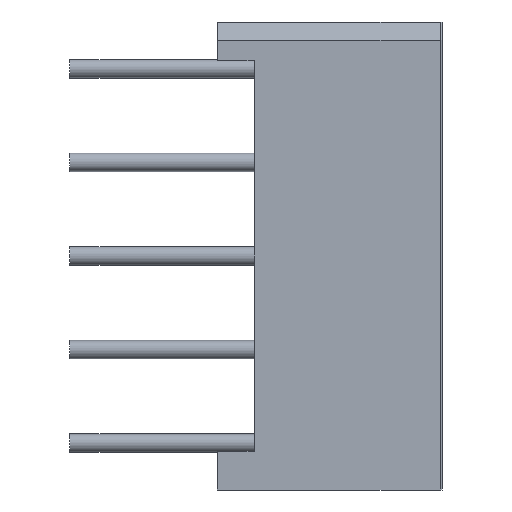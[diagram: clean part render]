
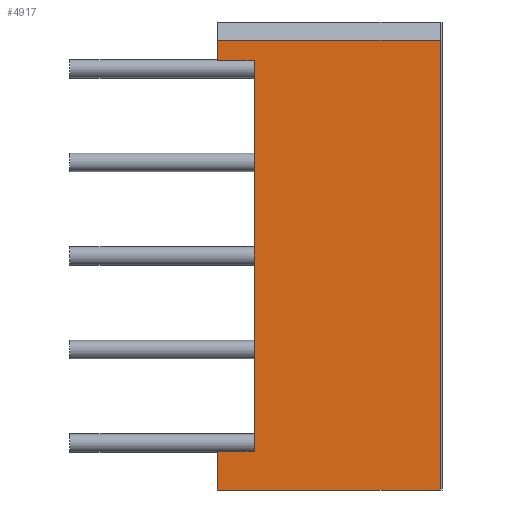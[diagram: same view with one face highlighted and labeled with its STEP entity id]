
A CAD part, left-side view. The second image highlights one B-rep face of the part: STEP entity #4917.
In plain terms, the highlighted planar face has unit normal (-1, 0, 0) as drawn and (1, 0, 0) by its records, which use the part's own axes.
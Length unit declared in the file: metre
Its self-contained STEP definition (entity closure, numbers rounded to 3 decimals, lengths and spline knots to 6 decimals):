
#352=LINE('',#7329,#933);
#528=LINE('',#7719,#1109);
#529=LINE('',#7721,#1110);
#530=LINE('',#7723,#1111);
#531=LINE('',#7725,#1112);
#532=LINE('',#7727,#1113);
#533=LINE('',#7729,#1114);
#534=LINE('',#7731,#1115);
#933=VECTOR('',#6085,1.);
#1109=VECTOR('',#6363,1.);
#1110=VECTOR('',#6364,1.);
#1111=VECTOR('',#6365,1.);
#1112=VECTOR('',#6366,1.);
#1113=VECTOR('',#6367,1.);
#1114=VECTOR('',#6368,1.);
#1115=VECTOR('',#6369,1.);
#1542=PLANE('',#5452);
#2382=ORIENTED_EDGE('',*,*,#3222,.T.);
#2383=ORIENTED_EDGE('',*,*,#3408,.T.);
#2384=ORIENTED_EDGE('',*,*,#3409,.F.);
#2385=ORIENTED_EDGE('',*,*,#3410,.F.);
#2386=ORIENTED_EDGE('',*,*,#3411,.T.);
#2387=ORIENTED_EDGE('',*,*,#3412,.F.);
#2388=ORIENTED_EDGE('',*,*,#3413,.F.);
#2389=ORIENTED_EDGE('',*,*,#3414,.F.);
#3222=EDGE_CURVE('',#3806,#3805,#352,.T.);
#3408=EDGE_CURVE('',#3805,#3945,#528,.T.);
#3409=EDGE_CURVE('',#3946,#3945,#529,.T.);
#3410=EDGE_CURVE('',#3947,#3946,#530,.T.);
#3411=EDGE_CURVE('',#3947,#3948,#531,.T.);
#3412=EDGE_CURVE('',#3949,#3948,#532,.T.);
#3413=EDGE_CURVE('',#3950,#3949,#533,.T.);
#3414=EDGE_CURVE('',#3806,#3950,#534,.T.);
#3805=VERTEX_POINT('',#7328);
#3806=VERTEX_POINT('',#7330);
#3945=VERTEX_POINT('',#7720);
#3946=VERTEX_POINT('',#7722);
#3947=VERTEX_POINT('',#7724);
#3948=VERTEX_POINT('',#7726);
#3949=VERTEX_POINT('',#7728);
#3950=VERTEX_POINT('',#7730);
#4280=EDGE_LOOP('',(#2382,#2383,#2384,#2385,#2386,#2387,#2388,#2389));
#4605=FACE_BOUND('',#4280,.T.);
#4917=ADVANCED_FACE('',(#4605),#1542,.F.);
#5452=AXIS2_PLACEMENT_3D('',#7718,#6361,#6362);
#6085=DIRECTION('',(0.,1.,0.));
#6361=DIRECTION('',(-1.,0.,0.));
#6362=DIRECTION('',(0.,0.,1.));
#6363=DIRECTION('',(0.,0.,1.));
#6364=DIRECTION('',(0.,1.,0.));
#6365=DIRECTION('',(0.,0.,1.));
#6366=DIRECTION('',(0.,1.,0.));
#6367=DIRECTION('',(0.,0.,1.));
#6368=DIRECTION('',(0.,1.,0.));
#6369=DIRECTION('',(0.,0.,1.));
#7328=CARTESIAN_POINT('',(0.0038,0.00025,-0.00635));
#7329=CARTESIAN_POINT('',(0.0038,-0.0058,-0.00635));
#7330=CARTESIAN_POINT('',(0.0038,-0.0058,-0.00635));
#7718=CARTESIAN_POINT('',(0.0038,-0.0058,-0.00025));
#7719=CARTESIAN_POINT('',(0.0038,0.00025,-0.00025));
#7720=CARTESIAN_POINT('',(0.0038,0.00025,0.00585));
#7721=CARTESIAN_POINT('',(0.0038,-0.0058,0.00585));
#7722=CARTESIAN_POINT('',(0.0038,-0.0058,0.00585));
#7723=CARTESIAN_POINT('',(0.0038,-0.0058,-0.00025));
#7724=CARTESIAN_POINT('',(0.0038,-0.0058,0.0053));
#7725=CARTESIAN_POINT('',(0.0038,-0.0058,0.0053));
#7726=CARTESIAN_POINT('',(0.0038,-0.0048,0.0053));
#7727=CARTESIAN_POINT('',(0.0038,-0.0048,-0.00025));
#7728=CARTESIAN_POINT('',(0.0038,-0.0048,-0.0053));
#7729=CARTESIAN_POINT('',(0.0038,-0.0058,-0.0053));
#7730=CARTESIAN_POINT('',(0.0038,-0.0058,-0.0053));
#7731=CARTESIAN_POINT('',(0.0038,-0.0058,-0.00025));
